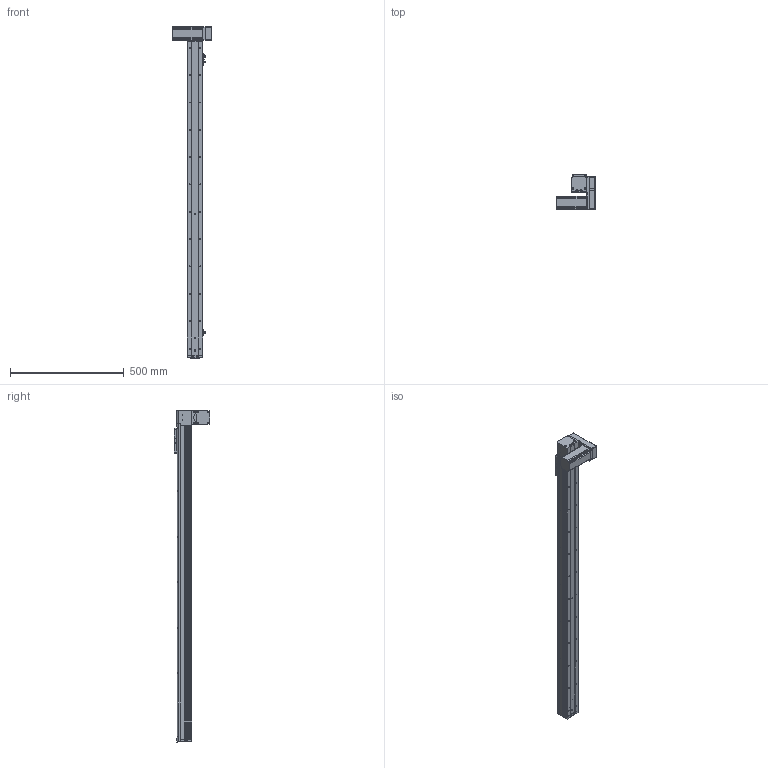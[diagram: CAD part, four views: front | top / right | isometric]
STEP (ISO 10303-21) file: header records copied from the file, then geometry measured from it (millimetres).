
FILE_DESCRIPTION (( 'STEP AP214' ), '1' );
FILE_NAME ('KSD68BS-S1200-MLD-CR.STEP', '2019-08-27T05:50:52', ( '微软用户' ), ( '微软中国' ), 'SwSTEP 2.0', 'SolidWorks 2014', '' );
FILE_SCHEMA (( 'AUTOMOTIVE_DESIGN' ));
Length unit declared in the file: millimetre
Products named in the file (14): 68宽单导轨全封闭丝杆传动安装板1防护罩; KSD68BS 1200行程侧板全封闭; 68宽单导轨全封闭同步带端板; 68单导轨全封闭同步带电机座左; 68单导轨全封闭同步带安装板; 悵誘欶奻狟殏; 68宽马达安装板连板上折同步带; 68遵裔啣揤啣1; 感应片68宽全封闭; U倰嫖萇EEㄜSX672; 台达ECMA－C20604AS伺服电机（400W); KSD68BS 1200行程底板全封闭; KSD68BS-S1200-MLD-CR; KSD68BS 1200行程盖板全封闭
Assembly tree (17 placements, depth 2):
  KSD68BS-S1200-MLD-CR
    KSD68BS 1200行程底板全封闭
    台达ECMA－C20604AS伺服电机（400W)
    U倰嫖萇EEㄜSX672  x3
    感应片68宽全封闭
    68宽马达安装板连板上折同步带
    悵誘欶奻狟殏
    68单导轨全封闭同步带安装板
    68单导轨全封闭同步带电机座左
    68宽单导轨全封闭同步带端板
    KSD68BS 1200行程侧板全封闭  x2
    68宽单导轨全封闭丝杆传动安装板1防护罩
    68遵裔啣揤啣1  x2
    KSD68BS 1200行程盖板全封闭
Bounding box: 167.2 x 155.5 x 1458.1 mm (x, y, z)
Volume: 2808134.7 mm3; surface area: 1097515.8 mm2
Topology: 18 solids, 18 shells, 1513 faces, 4319 edges, 2754 vertices
Faces by surface type: cylinder 708, plane 629, cone 176
Entity records: 47903 total; most frequent: CARTESIAN_POINT 8401, DIRECTION 7154, ORIENTED_EDGE 6874, EDGE_CURVE 3437, AXIS2_PLACEMENT_3D 2575, VERTEX_POINT 2252, VECTOR 2004, LINE 2004
